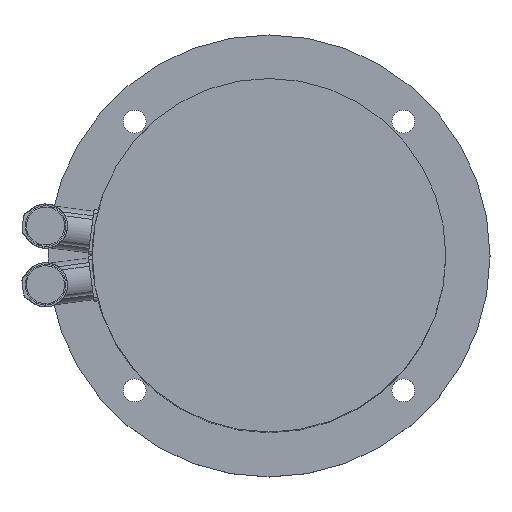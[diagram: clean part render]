
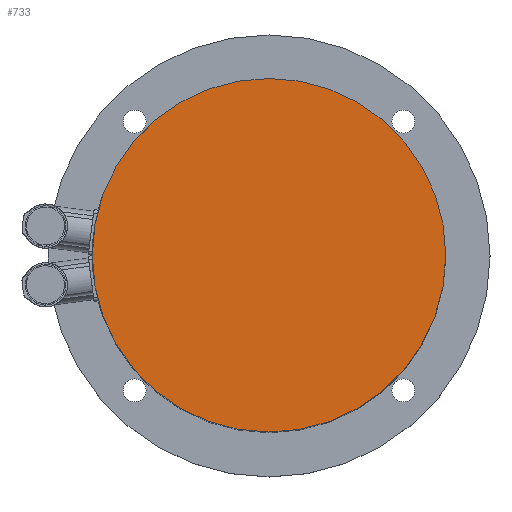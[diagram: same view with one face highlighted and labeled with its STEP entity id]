
A CAD part, top view. The second image highlights one B-rep face of the part: STEP entity #733.
In plain terms, the highlighted planar face has unit normal (0, 0, 1).
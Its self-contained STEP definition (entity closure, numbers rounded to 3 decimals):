
#733=ADVANCED_FACE('',(#1025),#927,.T.);
#927=PLANE('',#3602);
#1025=FACE_OUTER_BOUND('',#1227,.T.);
#1227=EDGE_LOOP('',(#1468));
#1468=ORIENTED_EDGE('',*,*,#2862,.F.);
#2503=VERTEX_POINT('',#5022);
#2862=EDGE_CURVE('',#2503,#2503,#3384,.T.);
#3384=CIRCLE('',#3601,100.);
#3601=AXIS2_PLACEMENT_3D('',#5021,#4040,#4041);
#3602=AXIS2_PLACEMENT_3D('',#5023,#4042,#4043);
#4040=DIRECTION('',(0.,0.,-1.));
#4041=DIRECTION('',(-1.,0.,0.));
#4042=DIRECTION('',(0.,0.,1.));
#4043=DIRECTION('',(1.,0.,0.));
#5021=CARTESIAN_POINT('',(0.,0.,227.));
#5022=CARTESIAN_POINT('',(-100.,0.,227.));
#5023=CARTESIAN_POINT('',(0.,0.,227.));
